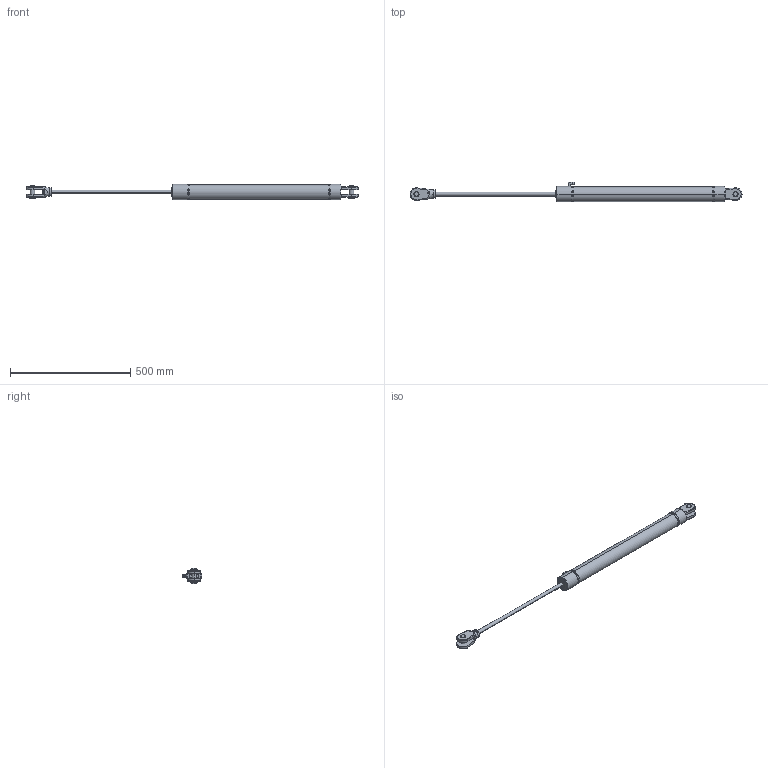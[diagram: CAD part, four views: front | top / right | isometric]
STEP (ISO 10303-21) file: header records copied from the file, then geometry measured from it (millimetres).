
FILE_DESCRIPTION (( 'STEP AP203' ), '1' );
FILE_NAME ('CL_050_S_0500.STEP', '2017-12-20T17:00:08', ( '' ), ( '' ), 'SwSTEP 2.0', 'SolidWorks 2015', '' );
FILE_SCHEMA (( 'CONFIG_CONTROL_DESIGN' ));
Length unit declared in the file: millimetre
Products named in the file (1): CL_050_S_0500
Bounding box: 1382.5 x 81.56 x 64 mm (x, y, z)
Volume: 2645425.9 mm3; surface area: 247229.7 mm2
Topology: 14 solids, 14 shells, 322 faces, 723 edges, 443 vertices
Faces by surface type: plane 118, cylinder 111, cone 67, torus 26
Entity records: 9535 total; most frequent: CARTESIAN_POINT 2208, DIRECTION 1616, ORIENTED_EDGE 1446, EDGE_CURVE 723, AXIS2_PLACEMENT_3D 649, VERTEX_POINT 443, EDGE_LOOP 342, CIRCLE 326
